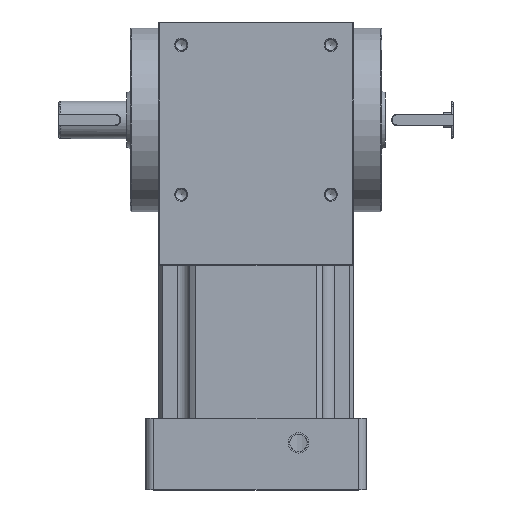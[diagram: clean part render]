
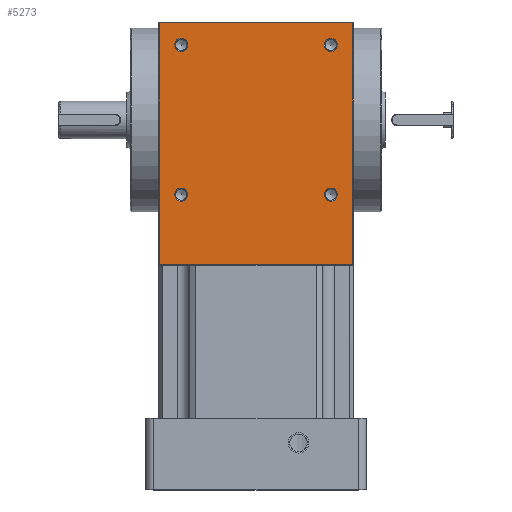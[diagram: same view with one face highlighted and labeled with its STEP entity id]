
A CAD part, top view. The second image highlights one B-rep face of the part: STEP entity #5273.
In plain terms, the highlighted planar face has unit normal (0, 0, 1).
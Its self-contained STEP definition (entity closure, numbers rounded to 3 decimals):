
#4093=CARTESIAN_POINT('',(57.,-85.,57.5));
#4094=VERTEX_POINT('',#4093);
#4101=CARTESIAN_POINT('',(-57.,-85.,57.5));
#4102=VERTEX_POINT('',#4101);
#4103=CARTESIAN_POINT('',(57.,-85.,57.5));
#4104=DIRECTION('',(-1.0,0.0,0.0));
#4105=VECTOR('',#4104,114.);
#4106=LINE('',#4103,#4105);
#4107=EDGE_CURVE('',#4094,#4102,#4106,.T.);
#4215=CARTESIAN_POINT('',(-57.,57.,57.5));
#4216=VERTEX_POINT('',#4215);
#4217=CARTESIAN_POINT('',(-57.,57.,57.5));
#4218=DIRECTION('',(0.0,-1.0,0.0));
#4219=VECTOR('',#4218,142.0);
#4220=LINE('',#4217,#4219);
#4221=EDGE_CURVE('',#4216,#4102,#4220,.T.);
#4247=CARTESIAN_POINT('',(57.,57.,57.5));
#4248=VERTEX_POINT('',#4247);
#4255=CARTESIAN_POINT('',(57.,57.,57.5));
#4256=DIRECTION('',(0.0,-1.0,0.0));
#4257=VECTOR('',#4256,142.);
#4258=LINE('',#4255,#4257);
#4259=EDGE_CURVE('',#4248,#4094,#4258,.T.);
#4409=CARTESIAN_POINT('',(-57.,57.,57.5));
#4410=DIRECTION('',(1.0,0.0,0.0));
#4411=VECTOR('',#4410,114.0);
#4412=LINE('',#4409,#4411);
#4413=EDGE_CURVE('',#4216,#4248,#4412,.T.);
#5214=CARTESIAN_POINT('',(40.177,-44.,57.5));
#5215=VERTEX_POINT('',#5214);
#5216=CARTESIAN_POINT('',(44.0,-44.,57.5));
#5217=DIRECTION('',(0.0,0.0,1.0));
#5218=DIRECTION('',(1.0,0.0,0.0));
#5219=AXIS2_PLACEMENT_3D('',#5216,#5217,#5218);
#5220=CIRCLE('',#5219,3.823);
#5221=EDGE_CURVE('',#5215,#5215,#5220,.T.);
#5226=CARTESIAN_POINT('',(0.,0.,57.5));
#5227=DIRECTION('',(0.0,0.0,1.0));
#5228=DIRECTION('',(1.0,0.0,0.0));
#5229=AXIS2_PLACEMENT_3D('',#5226,#5227,#5228);
#5230=PLANE('',#5229);
#5231=ORIENTED_EDGE('',*,*,#4107,.F.);
#5232=ORIENTED_EDGE('',*,*,#4259,.F.);
#5233=ORIENTED_EDGE('',*,*,#4413,.F.);
#5234=ORIENTED_EDGE('',*,*,#4221,.T.);
#5235=EDGE_LOOP('',(#5231,#5232,#5233,#5234));
#5236=FACE_OUTER_BOUND('',#5235,.T.);
#5237=CARTESIAN_POINT('',(40.177,44.,57.5));
#5238=VERTEX_POINT('',#5237);
#5239=CARTESIAN_POINT('',(44.,44.,57.5));
#5240=DIRECTION('',(0.0,0.0,1.0));
#5241=DIRECTION('',(1.0,0.0,0.0));
#5242=AXIS2_PLACEMENT_3D('',#5239,#5240,#5241);
#5243=CIRCLE('',#5242,3.823);
#5244=EDGE_CURVE('',#5238,#5238,#5243,.T.);
#5245=ORIENTED_EDGE('',*,*,#5244,.F.);
#5246=EDGE_LOOP('',(#5245));
#5247=FACE_BOUND('',#5246,.T.);
#5248=CARTESIAN_POINT('',(-40.177,44.,57.5));
#5249=VERTEX_POINT('',#5248);
#5250=CARTESIAN_POINT('',(-44.0,44.,57.5));
#5251=DIRECTION('',(0.0,0.0,1.0));
#5252=DIRECTION('',(-1.0,0.0,0.0));
#5253=AXIS2_PLACEMENT_3D('',#5250,#5251,#5252);
#5254=CIRCLE('',#5253,3.823);
#5255=EDGE_CURVE('',#5249,#5249,#5254,.T.);
#5256=ORIENTED_EDGE('',*,*,#5255,.F.);
#5257=EDGE_LOOP('',(#5256));
#5258=FACE_BOUND('',#5257,.T.);
#5259=CARTESIAN_POINT('',(-40.177,-44.,57.5));
#5260=VERTEX_POINT('',#5259);
#5261=CARTESIAN_POINT('',(-44.0,-44.,57.5));
#5262=DIRECTION('',(0.0,0.0,1.0));
#5263=DIRECTION('',(-1.0,0.0,0.0));
#5264=AXIS2_PLACEMENT_3D('',#5261,#5262,#5263);
#5265=CIRCLE('',#5264,3.823);
#5266=EDGE_CURVE('',#5260,#5260,#5265,.T.);
#5267=ORIENTED_EDGE('',*,*,#5266,.F.);
#5268=EDGE_LOOP('',(#5267));
#5269=FACE_BOUND('',#5268,.T.);
#5270=ORIENTED_EDGE('',*,*,#5221,.F.);
#5271=EDGE_LOOP('',(#5270));
#5272=FACE_BOUND('',#5271,.T.);
#5273=ADVANCED_FACE('',(#5236,#5247,#5258,#5269,#5272),#5230,.T.);
